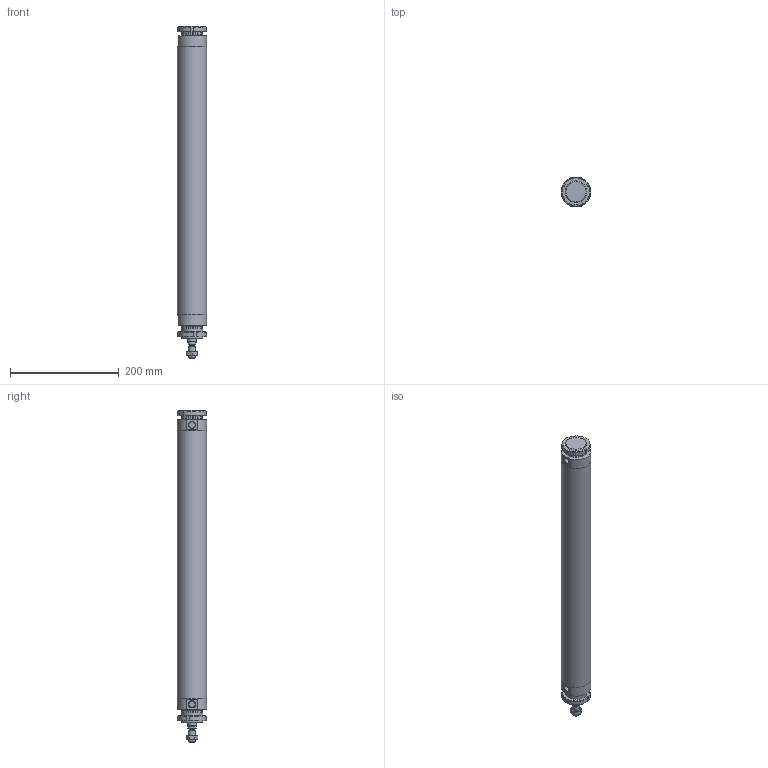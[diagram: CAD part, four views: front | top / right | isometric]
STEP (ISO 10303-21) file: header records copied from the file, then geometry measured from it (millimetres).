
FILE_DESCRIPTION(/* description */ (''),/* implementation_level */ '2;1');
FILE_NAME(/* name */ 'I:\Area Tecnica\Documenti\A-Manieri\_Inventor\12X\12X#C_###_####_#_#\12XAC_050_0450_#_#.stp',/* time_stamp */ '2015-04-28T15:20:21+02:00',/* author */ ('maniean1'),/* organization */ ('Pneumax S.p.A.'),/* preprocessor_version */ 'ST-DEVELOPER v15.2',/* originating_system */ 'Autodesk Inventor 2014',/* authorisation */ '');
FILE_SCHEMA (('AUTOMOTIVE_DESIGN { 1 0 10303 214 3 1 1 }'));
Length unit declared in the file: millimetre
Products named in the file (7): C1250_619-0450; 12X50_604; S12X50_0450; 12X_50_11; 12X50_620; G12X_050_05; 12XAC_050_0450_#_#
Bounding box: 54 x 54 x 610 mm (x, y, z)
Volume: 498926.3 mm3; surface area: 231352.7 mm2
Topology: 7 solids, 7 shells, 106 faces, 240 edges, 154 vertices
Faces by surface type: plane 52, cylinder 27, cone 27
Full cylindrical faces by diameter (mm): 10.2 x1, 11.4 x2, 12 x2, 14 x1, 15.6 x1, 16 x1, 38.2 x2, 40 x6, 50 x2, 54 x3
Entity records: 2243 total; most frequent: CARTESIAN_POINT 413, DIRECTION 382, ORIENTED_EDGE 292, AXIS2_PLACEMENT_3D 165, EDGE_CURVE 146, EDGE_LOOP 132, VERTEX_POINT 112, ADVANCED_FACE 85
